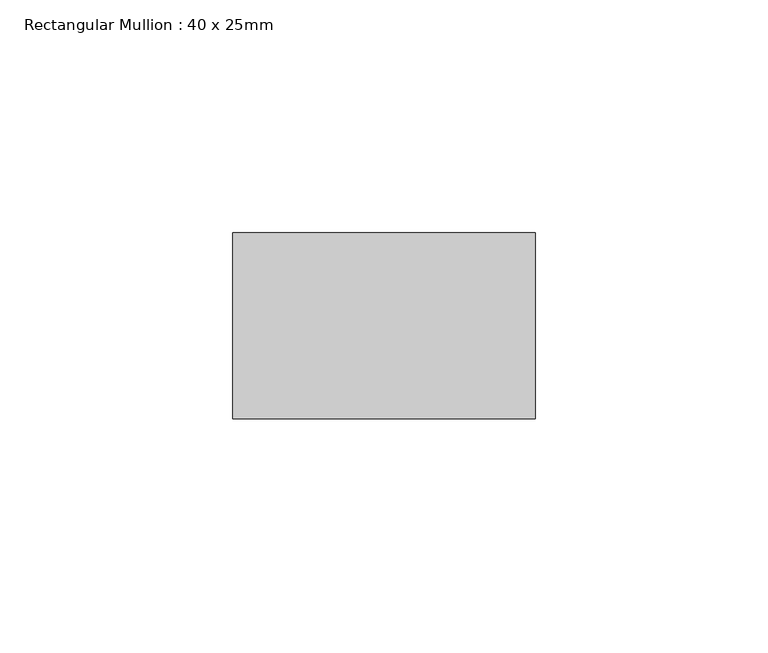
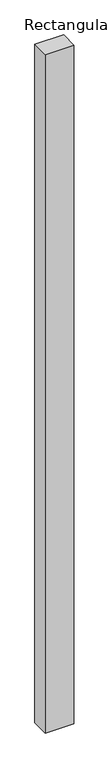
"""IFC4 building model written with IfcOpenShell, lengths in millimetres: member geometry, Rectangular Mullion : 40 x 25mm."""

import ifcopenshell
import ifcopenshell.guid

model = None  # the IFC model being written
_history = None  # IfcOwnerHistory: only IFC2X3 demands one
_inside = {}  # id of a spatial element -> (the spatial element, [elements in it])
_under = {}  # id of a project, library or spatial element -> (it, [spatial elements below it])
_declared = {}  # id of a project -> (the project, [libraries it declares])
_typed = {}  # id of a type object -> (the type object, [elements of that type])
_made_of = {}  # id of a material, layer set ... -> (it, [elements and type objects made of it])


def new_model(schema):
    """Start an empty IFC model of exactly this schema.

    Asked for "IFC4X3", IfcOpenShell would pick the latest addendum, in which some entities
    have other attributes; the version numbers below select the first issue.
    IFC2X3 requires an IfcOwnerHistory on every rooted entity: one is made here for all.
    """
    global model, _history
    if schema == "IFC4X3":
        model = ifcopenshell.file(schema_version=(4, 3, 0, 0))
    else:
        model = ifcopenshell.file(schema=schema)
    _inside.clear()
    _under.clear()
    _declared.clear()
    _typed.clear()
    _made_of.clear()
    _history = None
    if model.schema == "IFC2X3":
        org = make("IfcOrganization", Name="unknown")
        user = make(
            "IfcPersonAndOrganization",
            ThePerson=make("IfcPerson", FamilyName="unknown"),
            TheOrganization=org,
        )
        app = make(
            "IfcApplication",
            ApplicationDeveloper=org,
            Version="unknown",
            ApplicationFullName="unknown",
            ApplicationIdentifier="unknown",
        )
        _history = make(
            "IfcOwnerHistory",
            OwningUser=user,
            OwningApplication=app,
            ChangeAction="ADDED",
            CreationDate=0,
        )
    return model


def make(cls, **values):
    """One entity of the class cls with the attributes given. An attribute that is None is left unset."""
    return model.create_entity(
        cls, **{name: value for name, value in values.items() if value is not None}
    )


def rooted(cls, **values):
    """An entity with a GlobalId (a new one), such as an element, a storey or a relation."""
    return make(cls, GlobalId=ifcopenshell.guid.new(), OwnerHistory=_history, **values)


def si_unit(unit_type, name, prefix=None):
    """IfcSIUnit, for example si_unit("LENGTHUNIT", "METRE", prefix="MILLI")."""
    return make("IfcSIUnit", UnitType=unit_type, Prefix=prefix, Name=name)


def assignment(units):
    """IfcUnitAssignment: the units of a project."""
    return None if units is None else make("IfcUnitAssignment", Units=units)


def point(xyz):
    """IfcCartesianPoint."""
    return None if xyz is None else make("IfcCartesianPoint", Coordinates=xyz)


def direction(xyz):
    """IfcDirection."""
    return None if xyz is None else make("IfcDirection", DirectionRatios=xyz)


def frame(location, z_axis=None, x_axis=None):
    """IfcAxis2Placement3D, a coordinate frame: its origin and axes. An axis left out is left unset."""
    return make(
        "IfcAxis2Placement3D",
        Location=point(location),
        Axis=direction(z_axis),
        RefDirection=direction(x_axis),
    )


def origin():
    """The frame at (0, 0, 0) with its axes left unset."""
    return frame((0.0, 0.0, 0.0))


def place(relative_to, where):
    """IfcLocalPlacement: puts the frame where relative to a parent placement (None: the world)."""
    return make(
        "IfcLocalPlacement", PlacementRelTo=relative_to, RelativePlacement=where
    )


def context(
    kind, dimensions, precision=None, world=None, true_north=None, identifier=None
):
    """IfcGeometricRepresentationContext, for example the 3D "Model" context."""
    return make(
        "IfcGeometricRepresentationContext",
        ContextIdentifier=identifier,
        ContextType=kind,
        CoordinateSpaceDimension=dimensions,
        Precision=precision,
        WorldCoordinateSystem=world,
        TrueNorth=true_north,
    )


def project(units=None, contexts=None):
    """IfcProject with its units and contexts."""
    return rooted(
        "IfcProject",
        Name="project",
        RepresentationContexts=contexts,
        UnitsInContext=assignment(units),
    )


def spatial(cls, under=None, at=None, **own):
    """A site, building, storey or space (cls), placed at a placement, below another one or the project."""
    s = rooted(cls, ObjectPlacement=at, **own)
    if under is not None:
        _under.setdefault(under.id(), (under, []))[1].append(s)
    return s


def polyline(points):
    """IfcPolyline through the points."""
    return make("IfcPolyline", Points=[point(p) for p in points])


def outline(outer, holes=None, kind="AREA"):
    """IfcArbitraryClosedProfileDef: a profile drawn as a closed curve; with holes, ...WithVoids."""
    if holes is None:
        return make("IfcArbitraryClosedProfileDef", ProfileType=kind, OuterCurve=outer)
    return make(
        "IfcArbitraryProfileDefWithVoids",
        ProfileType=kind,
        OuterCurve=outer,
        InnerCurves=holes,
    )


def extrude(swept, where, along, depth):
    """IfcExtrudedAreaSolid: the profile swept, set in the frame where, extruded along a direction by depth."""
    return make(
        "IfcExtrudedAreaSolid",
        SweptArea=swept,
        Position=where,
        ExtrudedDirection=direction(along),
        Depth=depth,
    )


def shape(context_of_items, identifier, shape_type, items):
    """IfcShapeRepresentation: the items that make up one representation, for example the "Body"."""
    return make(
        "IfcShapeRepresentation",
        ContextOfItems=context_of_items,
        RepresentationIdentifier=identifier,
        RepresentationType=shape_type,
        Items=items,
    )


def source(mapping_origin, context_of_items, identifier, shape_type, items):
    """IfcRepresentationMap: a shape defined once, which mapped items show again and again."""
    return make(
        "IfcRepresentationMap",
        MappingOrigin=mapping_origin,
        MappedRepresentation=shape(context_of_items, identifier, shape_type, items),
    )


def transform(
    local_origin,
    x_axis=None,
    y_axis=None,
    z_axis=None,
    scale=None,
    scale2=None,
    scale3=None,
    uniform=True,
):
    """IfcCartesianTransformationOperator3D, or its non-uniform kind. x_axis, y_axis, z_axis: its Axis1, 2, 3."""
    if uniform:
        return make(
            "IfcCartesianTransformationOperator3D",
            Axis1=direction(x_axis),
            Axis2=direction(y_axis),
            LocalOrigin=point(local_origin),
            Scale=scale,
            Axis3=direction(z_axis),
        )
    return make(
        "IfcCartesianTransformationOperator3DnonUniform",
        Axis1=direction(x_axis),
        Axis2=direction(y_axis),
        LocalOrigin=point(local_origin),
        Scale=scale,
        Axis3=direction(z_axis),
        Scale2=scale2,
        Scale3=scale3,
    )


def mapped(mapping_source, mapping_target):
    """IfcMappedItem: shows the shape of a source again, moved by a transform."""
    return make(
        "IfcMappedItem", MappingSource=mapping_source, MappingTarget=mapping_target
    )


def made_of(thing, what):
    """Note that an element or type object is made of a material, layer set ...; save() writes the relation."""
    if what is not None:
        _made_of.setdefault(what.id(), (what, []))[1].append(thing)
    return thing


def element(
    cls,
    number,
    at=None,
    inside=None,
    cuts=None,
    type_object=None,
    material=None,
    context=None,
    identifier="Body",
    shape_type=None,
    held_by="IfcProductDefinitionShape",
    body=None,
    shapes=None,
    **own,
):
    """One element of the class cls, such as IfcWall. Its Tag is "e" and its number.

    at: its placement. inside: the storey or other place that contains it. cuts: it is an
    opening in that element (IfcRelVoidsElement). A single representation is given by context,
    identifier, shape_type and body (its items); several are given by shapes. held_by: the class
    of the entity that holds the representations. save() writes the other relations.
    """
    e = rooted(cls, Tag="e%d" % number, ObjectPlacement=at, **own)
    if body is not None:
        shapes = [shape(context, identifier, shape_type, body)]
    if shapes is not None:
        e.Representation = make(held_by, Representations=shapes)
    if inside is not None:
        _inside.setdefault(inside.id(), (inside, []))[1].append(e)
    if cuts is not None:
        rooted(
            "IfcRelVoidsElement", RelatingBuildingElement=cuts, RelatedOpeningElement=e
        )
    if type_object is not None:
        _typed.setdefault(type_object.id(), (type_object, []))[1].append(e)
    return made_of(e, material)


def aggregate(whole, parts):
    """IfcRelAggregates: a whole, such as a stair, and the parts it consists of."""
    return rooted("IfcRelAggregates", RelatingObject=whole, RelatedObjects=parts)


def save(model, path):
    """Write the relations noted so far, then the file.

    IfcRelAggregates (storeys below a building ...), IfcRelContainedInSpatialStructure (elements
    in a storey), IfcRelDefinesByType, IfcRelAssociatesMaterial and IfcRelDeclares: one each for
    every whole, place, type object, material and project.
    """
    for whole, parts in _under.values():
        aggregate(whole, parts)
    for where, things in _inside.values():
        rooted(
            "IfcRelContainedInSpatialStructure",
            RelatedElements=things,
            RelatingStructure=where,
        )
    for kind, things in _typed.values():
        rooted("IfcRelDefinesByType", RelatedObjects=things, RelatingType=kind)
    for what, things in _made_of.values():
        rooted("IfcRelAssociatesMaterial", RelatedObjects=things, RelatingMaterial=what)
    for by, libraries in _declared.values():
        rooted("IfcRelDeclares", RelatingContext=by, RelatedDefinitions=libraries)
    model.write(path)


def rectangular_mullion_40_x_25mm_5287ffec(model_context):
    return source(origin(), model_context, "Body", "SweptSolid", [
        extrude(outline(polyline([(40.0, -20.0), (40.0, -60.0), (-25.0, -60.0), (-25.0, -20.0), (40.0, -20.0)])), frame((0.0, 0.0, -1620.0), z_axis=(0.0, 0.0, 1.0), x_axis=(1.0, 0.0, 0.0)), (0.0, 0.0, 1.0), 1620.0),
    ])


if __name__ == "__main__":
    model = new_model("IFC4")
    model_context = context("Model", 3, world=origin())
    ifc_project = project(units=[si_unit("LENGTHUNIT", "METRE", prefix="MILLI")], contexts=[model_context])
    site = spatial("IfcSite", under=ifc_project)
    building = spatial("IfcBuilding", under=site)
    placement = place(None, origin())
    rectangular_mullion_40_x_25mm_shape = rectangular_mullion_40_x_25mm_5287ffec(model_context)
    element("IfcMember", 1, ObjectType="Rectangular Mullion : 40 x 25mm", at=placement, inside=building, context=model_context, shape_type="MappedRepresentation", body=[
        mapped(rectangular_mullion_40_x_25mm_shape, transform((0.0, 0.0, 0.0), x_axis=(1.0, 0.0, 0.0), y_axis=(0.0, 1.0, 0.0), z_axis=(0.0, 0.0, 1.0))),
    ])
    save(model, "model.ifc")
